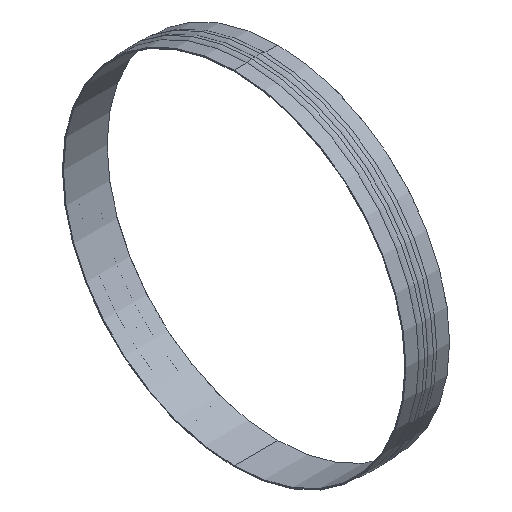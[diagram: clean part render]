
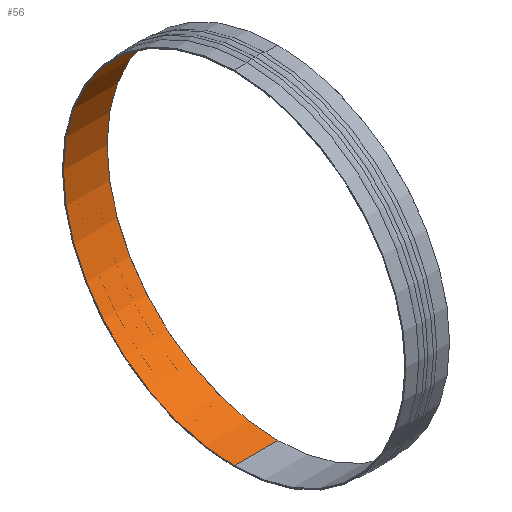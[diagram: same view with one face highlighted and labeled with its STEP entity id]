
A CAD part, isometric view. The second image highlights one B-rep face of the part: STEP entity #56.
In plain terms, the highlighted cylindrical face has radius 626 mm (diameter 1252 mm), a partial arc.
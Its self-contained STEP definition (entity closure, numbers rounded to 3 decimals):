
#56=ADVANCED_FACE('',(#113),#114,.F.);
#113=FACE_OUTER_BOUND('',#170,.T.);
#114=CYLINDRICAL_SURFACE('',#171,626.0);
#170=EDGE_LOOP('',(#261,#262,#263,#264));
#171=AXIS2_PLACEMENT_3D('',#265,#266,#267);
#261=ORIENTED_EDGE('',*,*,#356,.F.);
#262=ORIENTED_EDGE('',*,*,#357,.F.);
#263=ORIENTED_EDGE('',*,*,#358,.F.);
#264=ORIENTED_EDGE('',*,*,#359,.F.);
#265=CARTESIAN_POINT('',(0.0,0.0,0.0));
#266=DIRECTION('',(1.0,0.0,0.0));
#267=DIRECTION('',(0.0,0.0,-1.0));
#356=EDGE_CURVE('',#418,#419,#420,.T.);
#357=EDGE_CURVE('',#421,#418,#422,.T.);
#358=EDGE_CURVE('',#423,#421,#424,.T.);
#359=EDGE_CURVE('',#419,#423,#425,.T.);
#418=VERTEX_POINT('',#488);
#419=VERTEX_POINT('',#489);
#420=LINE('',#490,#491);
#421=VERTEX_POINT('',#492);
#422=CIRCLE('',#493,626.0);
#423=VERTEX_POINT('',#494);
#424=LINE('',#495,#496);
#425=CIRCLE('',#497,626.0);
#488=CARTESIAN_POINT('',(80.0,0.,-626.0));
#489=CARTESIAN_POINT('',(-80.0,0.,-626.0));
#490=CARTESIAN_POINT('',(0.0,0.,-626.0));
#491=VECTOR('',#571,1.0);
#492=CARTESIAN_POINT('',(80.0,0.,626.0));
#493=AXIS2_PLACEMENT_3D('',#572,#573,#574);
#494=CARTESIAN_POINT('',(-80.0,0.,626.0));
#495=CARTESIAN_POINT('',(0.0,0.,626.0));
#496=VECTOR('',#575,1.0);
#497=AXIS2_PLACEMENT_3D('',#576,#577,#578);
#571=DIRECTION('',(-1.0,0.0,0.0));
#572=CARTESIAN_POINT('',(80.0,0.0,0.0));
#573=DIRECTION('',(-1.0,-0.0,-0.0));
#574=DIRECTION('',(0.0,0.0,-1.0));
#575=DIRECTION('',(1.0,0.0,0.0));
#576=CARTESIAN_POINT('',(-80.0,0.0,0.0));
#577=DIRECTION('',(1.0,0.0,0.0));
#578=DIRECTION('',(0.0,0.0,-1.0));
